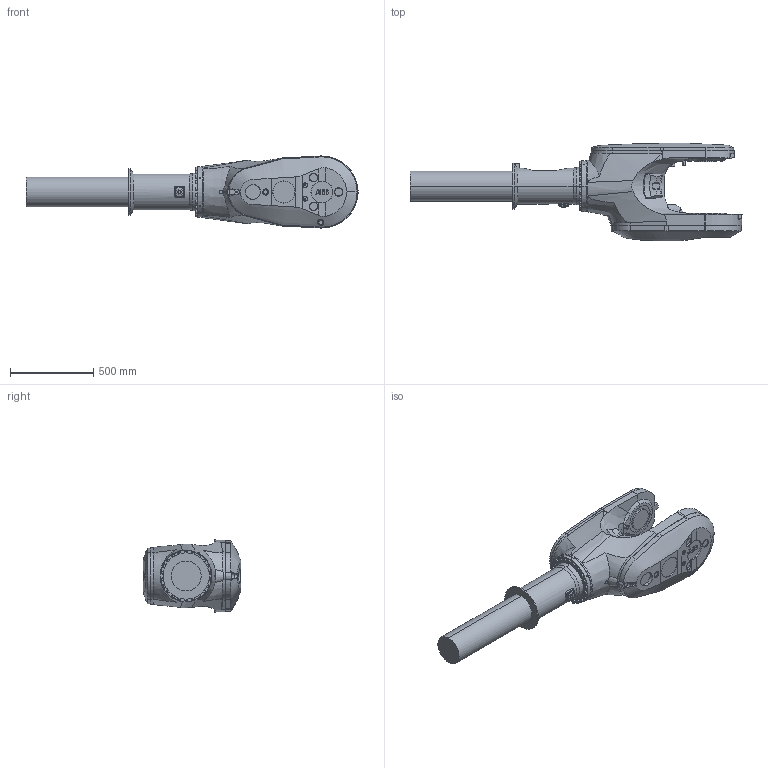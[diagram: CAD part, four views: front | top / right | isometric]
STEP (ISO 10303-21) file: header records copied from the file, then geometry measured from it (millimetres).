
FILE_DESCRIPTION (( 'STEP AP203' ), '1' );
FILE_NAME ('IRB8700-MH3_800-350_IRC5_rev00_LINK4_CAD.STEP', '2015-06-04T08:19:32', ( 'ABB' ), ( 'ABB' ), 'SwSTEP 2.0', 'SolidWorks 2014', '' );
FILE_SCHEMA (( 'CONFIG_CONTROL_DESIGN' ));
Length unit declared in the file: millimetre
Products named in the file (1): IRB8700-MH3_800-350_IRC5_rev00_LINK4_CAD
Bounding box: 1993.31 x 585.67 x 432.82 mm (x, y, z)
Volume: 138181395.6 mm3; surface area: 2494102.6 mm2
Topology: 1 solids, 1 shells, 618 faces, 1543 edges, 1003 vertices
Faces by surface type: plane 287, cylinder 154, cone 129, bspline 48
Entity records: 39516 total; most frequent: CARTESIAN_POINT 25444, ORIENTED_EDGE 3062, DIRECTION 2650, EDGE_CURVE 1531, VERTEX_POINT 1003, AXIS2_PLACEMENT_3D 969, LINE 712, VECTOR 712
